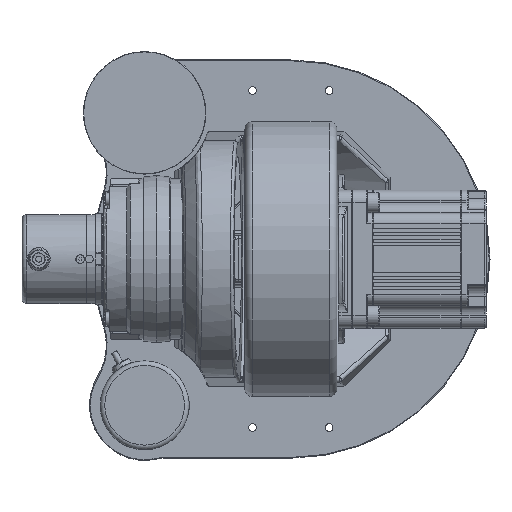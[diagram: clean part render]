
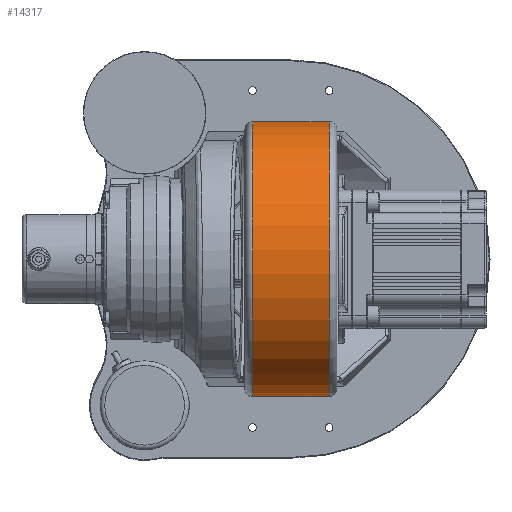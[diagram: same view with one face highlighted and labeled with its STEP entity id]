
A CAD part, front view. The second image highlights one B-rep face of the part: STEP entity #14317.
In plain terms, the highlighted cylindrical face has radius 90 mm (diameter 180 mm), a full revolution.
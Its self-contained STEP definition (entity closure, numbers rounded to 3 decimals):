
#868 = CIRCLE ( 'NONE', #6207, 90. ) ;
#6207 = AXIS2_PLACEMENT_3D ( 'NONE', #9544, #18076, #110148 ) ;
#9544 = CARTESIAN_POINT ( 'NONE',  ( -46.052, 25.05, 292.061 ) ) ;
#14317 = ADVANCED_FACE ( 'NONE', ( #111823, #36854 ), #68546, .T. ) ;
#18076 = DIRECTION ( 'NONE',  ( -1., 0., 0. ) ) ;
#18413 = DIRECTION ( 'NONE',  ( -1., 0., 0. ) ) ;
#20153 = VERTEX_POINT ( 'NONE', #68612 ) ;
#24201 = ORIENTED_EDGE ( 'NONE', *, *, #106230, .T. ) ;
#36854 = FACE_OUTER_BOUND ( 'NONE', #114192, .T. ) ;
#41680 = ORIENTED_EDGE ( 'NONE', *, *, #84751, .T. ) ;
#54475 = CARTESIAN_POINT ( 'NONE',  ( -41.052, 25.05, 292.061 ) ) ;
#54615 = DIRECTION ( 'NONE',  ( 1., 0., 0. ) ) ;
#54710 = CIRCLE ( 'NONE', #110300, 90. ) ;
#56722 = AXIS2_PLACEMENT_3D ( 'NONE', #54475, #18413, #81865 ) ;
#68546 = CYLINDRICAL_SURFACE ( 'NONE', #56722, 90. ) ;
#68612 = CARTESIAN_POINT ( 'NONE',  ( -96.052, -64.756, 297.981 ) ) ;
#81865 = DIRECTION ( 'NONE',  ( 0., 0.998, -0.066 ) ) ;
#84751 = EDGE_CURVE ( 'NONE', #20153, #20153, #54710, .T. ) ;
#91725 = CARTESIAN_POINT ( 'NONE',  ( -96.052, 25.05, 292.061 ) ) ;
#98181 = VERTEX_POINT ( 'NONE', #100007 ) ;
#100007 = CARTESIAN_POINT ( 'NONE',  ( -46.052, -64.756, 297.981 ) ) ;
#100952 = DIRECTION ( 'NONE',  ( 0., -0.998, 0.066 ) ) ;
#103013 = EDGE_LOOP ( 'NONE', ( #41680 ) ) ;
#106230 = EDGE_CURVE ( 'NONE', #98181, #98181, #868, .T. ) ;
#110148 = DIRECTION ( 'NONE',  ( 0., -0.998, 0.066 ) ) ;
#110300 = AXIS2_PLACEMENT_3D ( 'NONE', #91725, #54615, #100952 ) ;
#111823 = FACE_OUTER_BOUND ( 'NONE', #103013, .T. ) ;
#114192 = EDGE_LOOP ( 'NONE', ( #24201 ) ) ;
